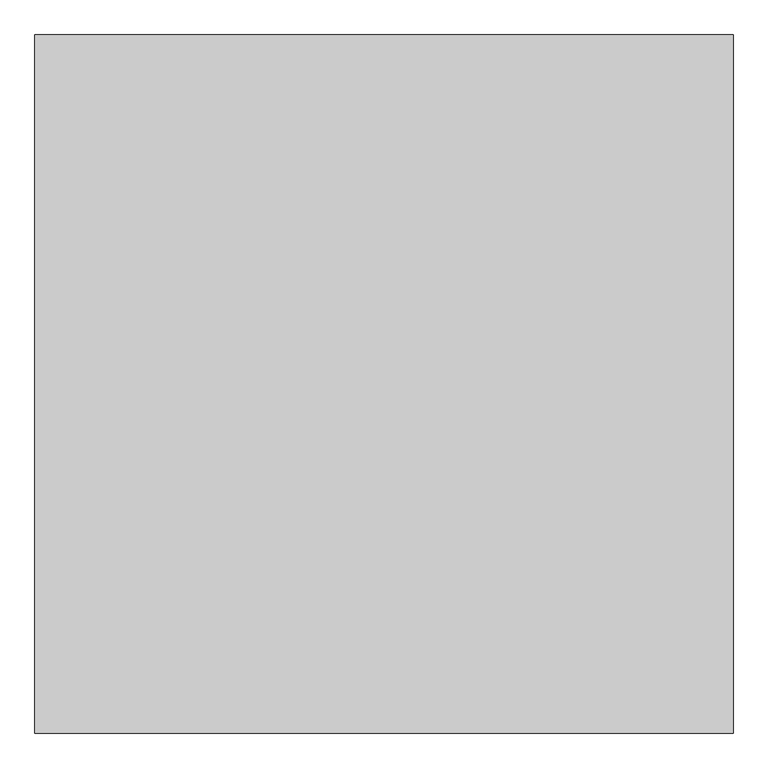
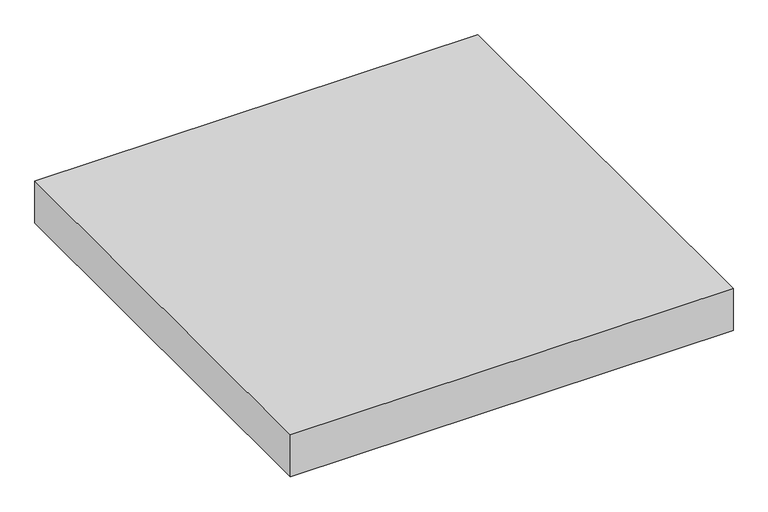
"""IFC4 building model written with IfcOpenShell, lengths in millimetres: proxy geometry, Modelos genéricos 4 : Modelos genéricos 1."""

import ifcopenshell
import ifcopenshell.guid

model = None  # the IFC model being written
_history = None  # IfcOwnerHistory: only IFC2X3 demands one
_inside = {}  # id of a spatial element -> (the spatial element, [elements in it])
_under = {}  # id of a project, library or spatial element -> (it, [spatial elements below it])
_declared = {}  # id of a project -> (the project, [libraries it declares])
_typed = {}  # id of a type object -> (the type object, [elements of that type])
_made_of = {}  # id of a material, layer set ... -> (it, [elements and type objects made of it])


def new_model(schema):
    """Start an empty IFC model of exactly this schema.

    Asked for "IFC4X3", IfcOpenShell would pick the latest addendum, in which some entities
    have other attributes; the version numbers below select the first issue.
    IFC2X3 requires an IfcOwnerHistory on every rooted entity: one is made here for all.
    """
    global model, _history
    if schema == "IFC4X3":
        model = ifcopenshell.file(schema_version=(4, 3, 0, 0))
    else:
        model = ifcopenshell.file(schema=schema)
    _inside.clear()
    _under.clear()
    _declared.clear()
    _typed.clear()
    _made_of.clear()
    _history = None
    if model.schema == "IFC2X3":
        org = make("IfcOrganization", Name="unknown")
        user = make(
            "IfcPersonAndOrganization",
            ThePerson=make("IfcPerson", FamilyName="unknown"),
            TheOrganization=org,
        )
        app = make(
            "IfcApplication",
            ApplicationDeveloper=org,
            Version="unknown",
            ApplicationFullName="unknown",
            ApplicationIdentifier="unknown",
        )
        _history = make(
            "IfcOwnerHistory",
            OwningUser=user,
            OwningApplication=app,
            ChangeAction="ADDED",
            CreationDate=0,
        )
    return model


def make(cls, **values):
    """One entity of the class cls with the attributes given. An attribute that is None is left unset."""
    return model.create_entity(
        cls, **{name: value for name, value in values.items() if value is not None}
    )


def rooted(cls, **values):
    """An entity with a GlobalId (a new one), such as an element, a storey or a relation."""
    return make(cls, GlobalId=ifcopenshell.guid.new(), OwnerHistory=_history, **values)


def si_unit(unit_type, name, prefix=None):
    """IfcSIUnit, for example si_unit("LENGTHUNIT", "METRE", prefix="MILLI")."""
    return make("IfcSIUnit", UnitType=unit_type, Prefix=prefix, Name=name)


def assignment(units):
    """IfcUnitAssignment: the units of a project."""
    return None if units is None else make("IfcUnitAssignment", Units=units)


def point(xyz):
    """IfcCartesianPoint."""
    return None if xyz is None else make("IfcCartesianPoint", Coordinates=xyz)


def direction(xyz):
    """IfcDirection."""
    return None if xyz is None else make("IfcDirection", DirectionRatios=xyz)


def frame(location, z_axis=None, x_axis=None):
    """IfcAxis2Placement3D, a coordinate frame: its origin and axes. An axis left out is left unset."""
    return make(
        "IfcAxis2Placement3D",
        Location=point(location),
        Axis=direction(z_axis),
        RefDirection=direction(x_axis),
    )


def origin():
    """The frame at (0, 0, 0) with its axes left unset."""
    return frame((0.0, 0.0, 0.0))


def origin_with_axes():
    """The frame at (0, 0, 0) with the z axis (0, 0, 1) and the x axis (1, 0, 0) written out."""
    return frame((0.0, 0.0, 0.0), z_axis=(0.0, 0.0, 1.0), x_axis=(1.0, 0.0, 0.0))


def place(relative_to, where):
    """IfcLocalPlacement: puts the frame where relative to a parent placement (None: the world)."""
    return make(
        "IfcLocalPlacement", PlacementRelTo=relative_to, RelativePlacement=where
    )


def context(
    kind, dimensions, precision=None, world=None, true_north=None, identifier=None
):
    """IfcGeometricRepresentationContext, for example the 3D "Model" context."""
    return make(
        "IfcGeometricRepresentationContext",
        ContextIdentifier=identifier,
        ContextType=kind,
        CoordinateSpaceDimension=dimensions,
        Precision=precision,
        WorldCoordinateSystem=world,
        TrueNorth=true_north,
    )


def project(units=None, contexts=None):
    """IfcProject with its units and contexts."""
    return rooted(
        "IfcProject",
        Name="project",
        RepresentationContexts=contexts,
        UnitsInContext=assignment(units),
    )


def spatial(cls, under=None, at=None, **own):
    """A site, building, storey or space (cls), placed at a placement, below another one or the project."""
    s = rooted(cls, ObjectPlacement=at, **own)
    if under is not None:
        _under.setdefault(under.id(), (under, []))[1].append(s)
    return s


def polyline(points):
    """IfcPolyline through the points."""
    return make("IfcPolyline", Points=[point(p) for p in points])


def outline(outer, holes=None, kind="AREA"):
    """IfcArbitraryClosedProfileDef: a profile drawn as a closed curve; with holes, ...WithVoids."""
    if holes is None:
        return make("IfcArbitraryClosedProfileDef", ProfileType=kind, OuterCurve=outer)
    return make(
        "IfcArbitraryProfileDefWithVoids",
        ProfileType=kind,
        OuterCurve=outer,
        InnerCurves=holes,
    )


def extrude(swept, where, along, depth):
    """IfcExtrudedAreaSolid: the profile swept, set in the frame where, extruded along a direction by depth."""
    return make(
        "IfcExtrudedAreaSolid",
        SweptArea=swept,
        Position=where,
        ExtrudedDirection=direction(along),
        Depth=depth,
    )


def shape(context_of_items, identifier, shape_type, items):
    """IfcShapeRepresentation: the items that make up one representation, for example the "Body"."""
    return make(
        "IfcShapeRepresentation",
        ContextOfItems=context_of_items,
        RepresentationIdentifier=identifier,
        RepresentationType=shape_type,
        Items=items,
    )


def source(mapping_origin, context_of_items, identifier, shape_type, items):
    """IfcRepresentationMap: a shape defined once, which mapped items show again and again."""
    return make(
        "IfcRepresentationMap",
        MappingOrigin=mapping_origin,
        MappedRepresentation=shape(context_of_items, identifier, shape_type, items),
    )


def transform(
    local_origin,
    x_axis=None,
    y_axis=None,
    z_axis=None,
    scale=None,
    scale2=None,
    scale3=None,
    uniform=True,
):
    """IfcCartesianTransformationOperator3D, or its non-uniform kind. x_axis, y_axis, z_axis: its Axis1, 2, 3."""
    if uniform:
        return make(
            "IfcCartesianTransformationOperator3D",
            Axis1=direction(x_axis),
            Axis2=direction(y_axis),
            LocalOrigin=point(local_origin),
            Scale=scale,
            Axis3=direction(z_axis),
        )
    return make(
        "IfcCartesianTransformationOperator3DnonUniform",
        Axis1=direction(x_axis),
        Axis2=direction(y_axis),
        LocalOrigin=point(local_origin),
        Scale=scale,
        Axis3=direction(z_axis),
        Scale2=scale2,
        Scale3=scale3,
    )


def mapped(mapping_source, mapping_target):
    """IfcMappedItem: shows the shape of a source again, moved by a transform."""
    return make(
        "IfcMappedItem", MappingSource=mapping_source, MappingTarget=mapping_target
    )


def made_of(thing, what):
    """Note that an element or type object is made of a material, layer set ...; save() writes the relation."""
    if what is not None:
        _made_of.setdefault(what.id(), (what, []))[1].append(thing)
    return thing


def element(
    cls,
    number,
    at=None,
    inside=None,
    cuts=None,
    type_object=None,
    material=None,
    context=None,
    identifier="Body",
    shape_type=None,
    held_by="IfcProductDefinitionShape",
    body=None,
    shapes=None,
    **own,
):
    """One element of the class cls, such as IfcWall. Its Tag is "e" and its number.

    at: its placement. inside: the storey or other place that contains it. cuts: it is an
    opening in that element (IfcRelVoidsElement). A single representation is given by context,
    identifier, shape_type and body (its items); several are given by shapes. held_by: the class
    of the entity that holds the representations. save() writes the other relations.
    """
    e = rooted(cls, Tag="e%d" % number, ObjectPlacement=at, **own)
    if body is not None:
        shapes = [shape(context, identifier, shape_type, body)]
    if shapes is not None:
        e.Representation = make(held_by, Representations=shapes)
    if inside is not None:
        _inside.setdefault(inside.id(), (inside, []))[1].append(e)
    if cuts is not None:
        rooted(
            "IfcRelVoidsElement", RelatingBuildingElement=cuts, RelatedOpeningElement=e
        )
    if type_object is not None:
        _typed.setdefault(type_object.id(), (type_object, []))[1].append(e)
    return made_of(e, material)


def aggregate(whole, parts):
    """IfcRelAggregates: a whole, such as a stair, and the parts it consists of."""
    return rooted("IfcRelAggregates", RelatingObject=whole, RelatedObjects=parts)


def save(model, path):
    """Write the relations noted so far, then the file.

    IfcRelAggregates (storeys below a building ...), IfcRelContainedInSpatialStructure (elements
    in a storey), IfcRelDefinesByType, IfcRelAssociatesMaterial and IfcRelDeclares: one each for
    every whole, place, type object, material and project.
    """
    for whole, parts in _under.values():
        aggregate(whole, parts)
    for where, things in _inside.values():
        rooted(
            "IfcRelContainedInSpatialStructure",
            RelatedElements=things,
            RelatingStructure=where,
        )
    for kind, things in _typed.values():
        rooted("IfcRelDefinesByType", RelatedObjects=things, RelatingType=kind)
    for what, things in _made_of.values():
        rooted("IfcRelAssociatesMaterial", RelatedObjects=things, RelatingMaterial=what)
    for by, libraries in _declared.values():
        rooted("IfcRelDeclares", RelatingContext=by, RelatedDefinitions=libraries)
    model.write(path)


def generic_models_6499e876(model_context):
    return source(origin(), model_context, "Body", "SweptSolid", [
        extrude(outline(polyline([(-14225.6026359, 3954.287186), (-14225.6026359, 2454.287186), (-15725.6026359, 2454.287186), (-15725.6026359, 3954.287186), (-14225.6026359, 3954.287186)])), origin_with_axes(), (0.0, 0.0, 1.0), 150.0),
    ])


if __name__ == "__main__":
    model = new_model("IFC4")
    model_context = context("Model", 3, world=origin())
    ifc_project = project(units=[si_unit("LENGTHUNIT", "METRE", prefix="MILLI")], contexts=[model_context])
    site = spatial("IfcSite", under=ifc_project)
    building = spatial("IfcBuilding", under=site)
    placement = place(None, origin())
    generic_models_shape = generic_models_6499e876(model_context)
    element("IfcBuildingElementProxy", 1, Name="Modelos genéricos 4 : Modelos genéricos 1", ObjectType="Modelos genéricos 4 : Modelos genéricos 1", at=placement, inside=building, context=model_context, shape_type="MappedRepresentation", body=[
        mapped(generic_models_shape, transform((0.0, 0.0, 0.0), x_axis=(1.0, 0.0, 0.0), y_axis=(0.0, 1.0, 0.0), z_axis=(0.0, 0.0, 1.0))),
    ])
    save(model, "model.ifc")
